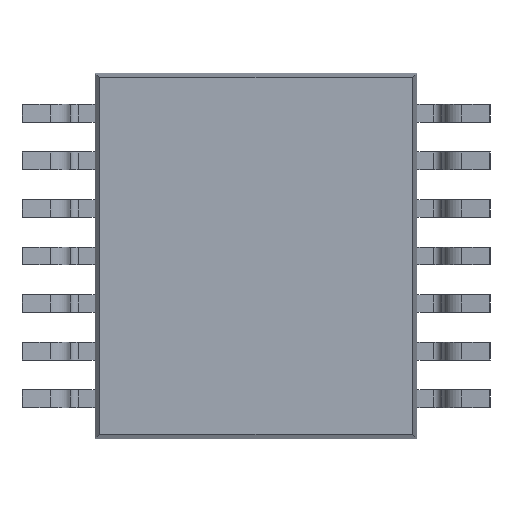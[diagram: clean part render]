
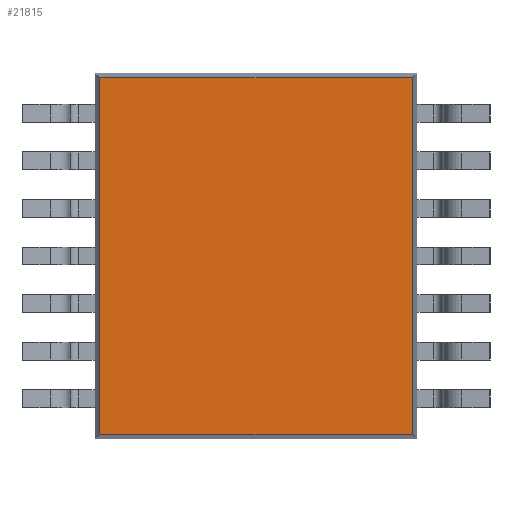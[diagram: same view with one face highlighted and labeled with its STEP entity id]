
A CAD part, front view. The second image highlights one B-rep face of the part: STEP entity #21815.
In plain terms, the highlighted planar face has unit normal (0, -1, 0).
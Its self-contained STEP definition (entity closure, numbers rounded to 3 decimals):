
#3160=FACE_OUTER_BOUND('',#4361,.T.);
#4361=EDGE_LOOP('',(#20124,#20125,#20126,#20127));
#6324=LINE('',#41507,#8290);
#6327=LINE('',#41512,#8293);
#6329=LINE('',#41516,#8295);
#6330=LINE('',#41518,#8296);
#8290=VECTOR('',#25898,1000.);
#8293=VECTOR('',#25903,1000.);
#8295=VECTOR('',#25907,1000.);
#8296=VECTOR('',#25910,1000.);
#10442=VERTEX_POINT('',#41504);
#10443=VERTEX_POINT('',#41506);
#10444=VERTEX_POINT('',#41510);
#10445=VERTEX_POINT('',#41514);
#13667=EDGE_CURVE('',#10443,#10442,#6324,.T.);
#13670=EDGE_CURVE('',#10442,#10444,#6327,.T.);
#13672=EDGE_CURVE('',#10444,#10445,#6329,.T.);
#13673=EDGE_CURVE('',#10445,#10443,#6330,.T.);
#20124=ORIENTED_EDGE('',*,*,#13667,.T.);
#20125=ORIENTED_EDGE('',*,*,#13670,.T.);
#20126=ORIENTED_EDGE('',*,*,#13672,.T.);
#20127=ORIENTED_EDGE('',*,*,#13673,.T.);
#20660=PLANE('',#22545);
#21815=ADVANCED_FACE('',(#3160),#20660,.T.);
#22545=AXIS2_PLACEMENT_3D('',#41519,#25911,#25912);
#25898=DIRECTION('',(0.,0.,1.));
#25903=DIRECTION('',(-1.,0.,0.));
#25907=DIRECTION('',(0.,0.,-1.));
#25910=DIRECTION('',(1.,0.,0.));
#25911=DIRECTION('center_axis',(0.,-1.,0.));
#25912=DIRECTION('ref_axis',(0.,0.,-1.));
#41504=CARTESIAN_POINT('',(2.137,0.15,2.437));
#41506=CARTESIAN_POINT('',(2.137,0.15,-2.437));
#41507=CARTESIAN_POINT('',(2.137,0.15,-2.5));
#41510=CARTESIAN_POINT('',(-2.137,0.15,2.437));
#41512=CARTESIAN_POINT('',(2.2,0.15,2.437));
#41514=CARTESIAN_POINT('',(-2.137,0.15,-2.437));
#41516=CARTESIAN_POINT('',(-2.137,0.15,2.5));
#41518=CARTESIAN_POINT('',(-2.2,0.15,-2.437));
#41519=CARTESIAN_POINT('Origin',(0.,0.15,0.));
